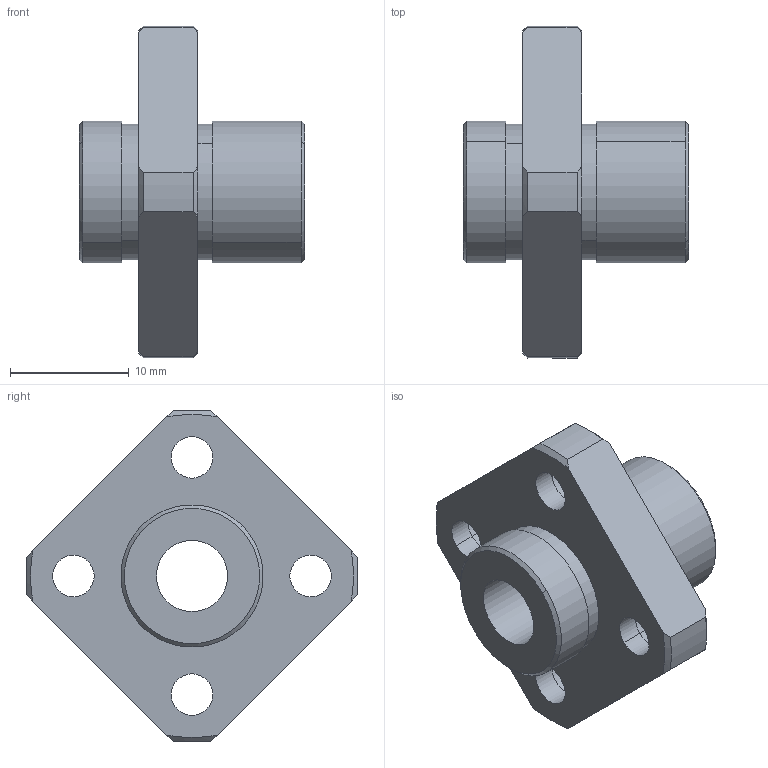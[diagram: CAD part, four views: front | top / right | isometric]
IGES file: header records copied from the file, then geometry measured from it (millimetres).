
Start section: 3D InterOp IGES (Version 21 0 1), Spatial Corp. Copyright (c) 1999-2007.
Global section: file name: NFIS-6VUU.igs; native system: Spatial Corp.; preprocessor: 3D InterOp GENERIC/IGES 3.0; author: Noname; organization: Noname; date: 20220308.112415; units: millimetre
Bounding box: 19 x 27.98 x 27.98 mm (x, y, z)
Surface area: 2441.9 mm2 (no closed solid volume)
Topology: 0 solids, 0 shells, 56 faces, 276 edges, 276 vertices
Faces by surface type: revolution 42, extrusion 14
